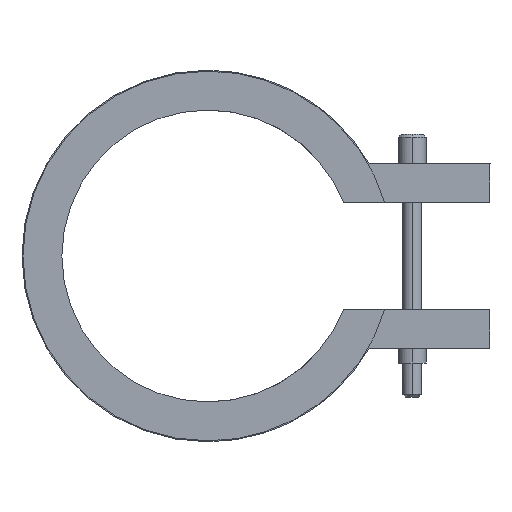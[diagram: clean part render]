
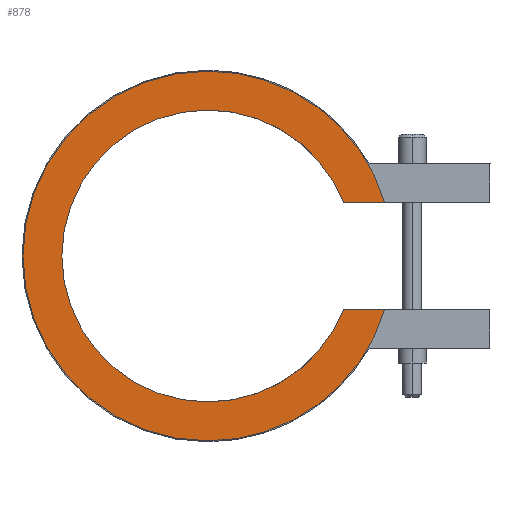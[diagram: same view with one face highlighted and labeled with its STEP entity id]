
A CAD part, left-side view. The second image highlights one B-rep face of the part: STEP entity #878.
In plain terms, the highlighted planar face has unit normal (-1, 0, 0).
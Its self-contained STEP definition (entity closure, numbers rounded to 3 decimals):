
#416=CARTESIAN_POINT('Vertex',(-20.,-13.955,-5.5)) ;
#419=CARTESIAN_POINT('Line Origine',(-20.,-16.071,-5.5)) ;
#423=CARTESIAN_POINT('Vertex',(-20.,-18.187,-5.5)) ;
#469=CARTESIAN_POINT('Vertex',(-20.,0.,-19.)) ;
#472=CARTESIAN_POINT('Axis2P3D Location',(-20.,0.,0.)) ;
#493=CARTESIAN_POINT('Vertex',(-20.,0.,19.)) ;
#496=CARTESIAN_POINT('Axis2P3D Location',(-20.,0.,0.)) ;
#508=CARTESIAN_POINT('Axis2P3D Location',(-20.,0.,0.)) ;
#512=CARTESIAN_POINT('Vertex',(-20.,-18.187,5.5)) ;
#532=CARTESIAN_POINT('Line Origine',(-20.,-16.071,5.5)) ;
#536=CARTESIAN_POINT('Vertex',(-20.,-13.955,5.5)) ;
#824=CARTESIAN_POINT('Axis2P3D Location',(-20.,0.,0.)) ;
#828=CARTESIAN_POINT('Vertex',(-20.,0.,-15.)) ;
#851=CARTESIAN_POINT('Axis2P3D Location',(-20.,0.,0.)) ;
#856=CARTESIAN_POINT('Axis2P3D Location',(-20.,0.,0.)) ;
#860=CARTESIAN_POINT('Vertex',(-20.,0.,15.)) ;
#863=CARTESIAN_POINT('Axis2P3D Location',(-20.,0.,0.)) ;
#420=DIRECTION('Vector Direction',(0.,1.,0.)) ;
#473=DIRECTION('Axis2P3D Direction',(1.,0.,-0.)) ;
#497=DIRECTION('Axis2P3D Direction',(1.,0.,-0.)) ;
#509=DIRECTION('Axis2P3D Direction',(1.,0.,-0.)) ;
#533=DIRECTION('Vector Direction',(0.,-1.,0.)) ;
#825=DIRECTION('Axis2P3D Direction',(1.,0.,-0.)) ;
#852=DIRECTION('Axis2P3D Direction',(1.,0.,0.)) ;
#853=DIRECTION('Axis2P3D XDirection',(0.,0.,-1.)) ;
#857=DIRECTION('Axis2P3D Direction',(1.,0.,0.)) ;
#864=DIRECTION('Axis2P3D Direction',(1.,0.,0.)) ;
#474=AXIS2_PLACEMENT_3D('Circle Axis2P3D',#472,#473,$) ;
#498=AXIS2_PLACEMENT_3D('Circle Axis2P3D',#496,#497,$) ;
#510=AXIS2_PLACEMENT_3D('Circle Axis2P3D',#508,#509,$) ;
#826=AXIS2_PLACEMENT_3D('Circle Axis2P3D',#824,#825,$) ;
#854=AXIS2_PLACEMENT_3D('Plane Axis2P3D',#851,#852,#853) ;
#858=AXIS2_PLACEMENT_3D('Circle Axis2P3D',#856,#857,$) ;
#865=AXIS2_PLACEMENT_3D('Circle Axis2P3D',#863,#864,$) ;
#869=ORIENTED_EDGE('',*,*,#425,.T.) ;
#870=ORIENTED_EDGE('',*,*,#830,.T.) ;
#871=ORIENTED_EDGE('',*,*,#862,.T.) ;
#872=ORIENTED_EDGE('',*,*,#867,.T.) ;
#873=ORIENTED_EDGE('',*,*,#538,.T.) ;
#874=ORIENTED_EDGE('',*,*,#514,.F.) ;
#875=ORIENTED_EDGE('',*,*,#500,.F.) ;
#876=ORIENTED_EDGE('',*,*,#476,.F.) ;
#421=VECTOR('Line Direction',#420,1.) ;
#534=VECTOR('Line Direction',#533,1.) ;
#878=ADVANCED_FACE('14030040',(#877),#855,.F.) ;
#475=CIRCLE('generated circle',#474,19.) ;
#499=CIRCLE('generated circle',#498,19.) ;
#511=CIRCLE('generated circle',#510,19.) ;
#827=CIRCLE('generated circle',#826,15.) ;
#859=CIRCLE('generated circle',#858,15.) ;
#866=CIRCLE('generated circle',#865,15.) ;
#425=EDGE_CURVE('',#424,#417,#422,.T.) ;
#476=EDGE_CURVE('',#424,#470,#475,.T.) ;
#500=EDGE_CURVE('',#470,#494,#499,.T.) ;
#514=EDGE_CURVE('',#494,#513,#511,.T.) ;
#538=EDGE_CURVE('',#537,#513,#535,.T.) ;
#830=EDGE_CURVE('',#417,#829,#827,.T.) ;
#862=EDGE_CURVE('',#829,#861,#859,.T.) ;
#867=EDGE_CURVE('',#861,#537,#866,.T.) ;
#868=EDGE_LOOP('',(#869,#870,#871,#872,#873,#874,#875,#876)) ;
#877=FACE_OUTER_BOUND('',#868,.T.) ;
#422=LINE('Line',#419,#421) ;
#535=LINE('Line',#532,#534) ;
#855=PLANE('Plane',#854) ;
#417=VERTEX_POINT('',#416) ;
#424=VERTEX_POINT('',#423) ;
#470=VERTEX_POINT('',#469) ;
#494=VERTEX_POINT('',#493) ;
#513=VERTEX_POINT('',#512) ;
#537=VERTEX_POINT('',#536) ;
#829=VERTEX_POINT('',#828) ;
#861=VERTEX_POINT('',#860) ;
